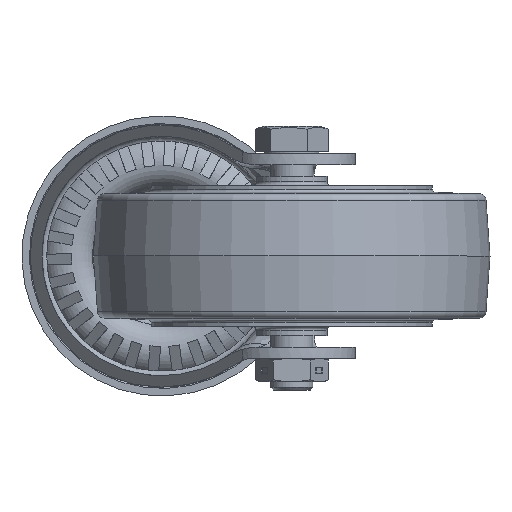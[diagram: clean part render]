
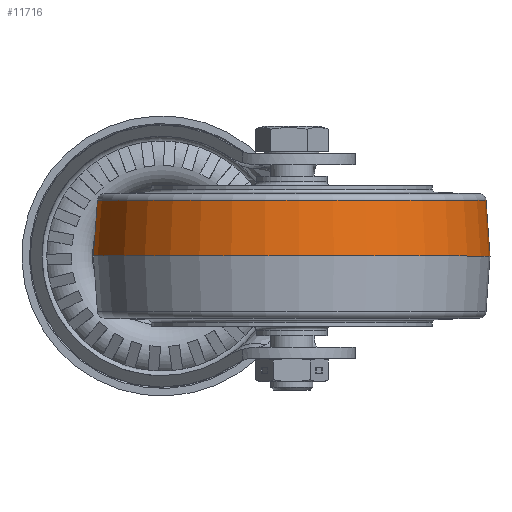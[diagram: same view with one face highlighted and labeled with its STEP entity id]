
A CAD part, front view. The second image highlights one B-rep face of the part: STEP entity #11716.
In plain terms, the highlighted conical face has half-angle 4.08 degrees and reference radius 44.501 mm.
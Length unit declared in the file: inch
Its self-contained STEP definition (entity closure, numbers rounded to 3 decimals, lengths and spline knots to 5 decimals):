
#11685=CARTESIAN_POINT('',(-1.71683,0.0,0.49312));
#11686=VERTEX_POINT('',#11685);
#11687=CARTESIAN_POINT('',(0.0,0.0,0.49312));
#11688=DIRECTION('',(0.0,0.0,-1.0));
#11689=DIRECTION('',(-1.0,0.0,0.0));
#11690=AXIS2_PLACEMENT_3D('',#11687,#11688,#11689);
#11691=CIRCLE('',#11690,1.71683);
#11692=EDGE_CURVE('',#11686,#11686,#11691,.T.);
#11697=CARTESIAN_POINT('',(0.0,0.0,0.0));
#11698=DIRECTION('',(0.0,0.0,-1.0));
#11699=DIRECTION('',(-1.0,0.0,0.0));
#11700=AXIS2_PLACEMENT_3D('',#11697,#11698,#11699);
#11701=CONICAL_SURFACE('',#11700,1.752,4.08);
#11702=ORIENTED_EDGE('',*,*,#11692,.T.);
#11703=EDGE_LOOP('',(#11702));
#11704=FACE_OUTER_BOUND('',#11703,.T.);
#11705=CARTESIAN_POINT('',(-1.752,0.,0.0));
#11706=VERTEX_POINT('',#11705);
#11707=CARTESIAN_POINT('',(0.0,0.0,0.0));
#11708=DIRECTION('',(0.0,0.0,-1.0));
#11709=DIRECTION('',(-1.0,0.0,0.0));
#11710=AXIS2_PLACEMENT_3D('',#11707,#11708,#11709);
#11711=CIRCLE('',#11710,1.752);
#11712=EDGE_CURVE('',#11706,#11706,#11711,.T.);
#11713=ORIENTED_EDGE('',*,*,#11712,.F.);
#11714=EDGE_LOOP('',(#11713));
#11715=FACE_BOUND('',#11714,.T.);
#11716=ADVANCED_FACE('',(#11704,#11715),#11701,.T.);
